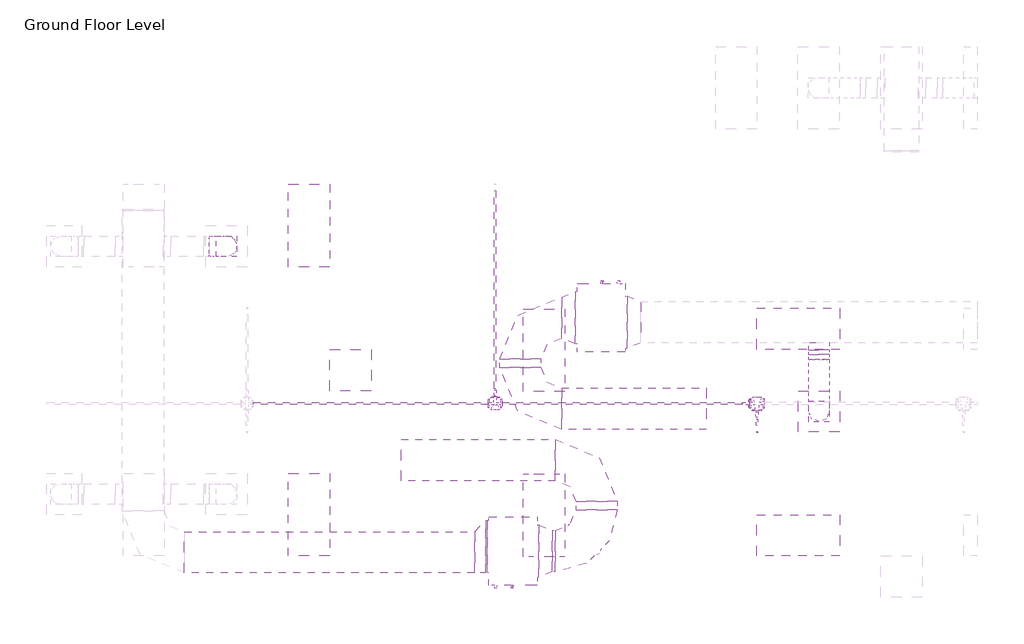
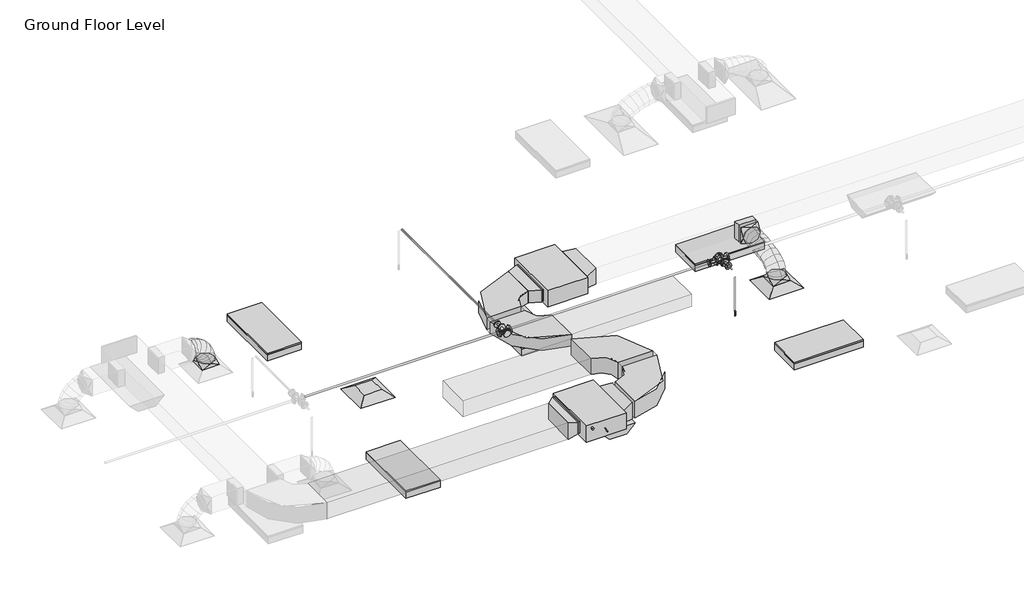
# One storey, part 11 of 66: 12 duct fittings, 11 duct segments, 6 light fixtures, 5 pipe fittings, 5 pipe segments, 2 air terminals, 2 proxies, 1 fire suppression terminal.
"""IFC4 building model written with IfcOpenShell, lengths in millimetres."""

from ifc_helpers import new_model, si_unit, point, frame, frame_2d, origin, place, context, project, spatial, polyline, circle_curve, ellipse_curve, trimmed, segment, composite_curve, outline, extrude, transform, mapped, element, save
from ifc_brep_helpers import plane_surface, cylinder_surface, advanced_brep
from components import m_return_diffuser_600_x_600_face_300_x_300_connection_ff221211, fcu_daikin_iu_7e1df382, m_rectangular_elbow_radius_1_w_907e8aaa, m_rectangular_elbow_radius_1_w_c6ed0251, m_rectangular_takeoff_standard_2be5eba1, m_rectangular_transition_angle_45_degree_ee72770e, m_rectangular_transition_angle_45_degree_4bb09f68, m_rectangular_transition_angle_45_degree_cf32fe34, m_rectangular_transition_angle_45_degree_023bf680, m_rectangular_to_round_transition_angle_45_degree_641efff0, m_sprinkler_dry_pendent_hosted_15_mm_dry_pendent_9bda8e11, m_emergency_recessed_lighting_fixture_600x1200_277_5b10b25d, m_troffer_light_parabolic_rectangular1_0600x1200mm_4_lamp_86473d4a, m_reducer_flanged_cs_class_150_standard_b6b67c23, m_reducer_flanged_cs_class_150_standard_ccf252ad, m_reducer_flanged_cs_class_150_standard_678fb8eb, m_tee_round_base_flanged_cs_class_150_standard_7e5987a1, m_tee_round_base_flanged_cs_class_150_standard_9c9133d0

model = new_model("IFC4")

# Units and contexts
model_context = context("Model", 3, world=origin())
ifc_project = project(units=[si_unit("LENGTHUNIT", "METRE", prefix="MILLI")], contexts=[model_context])

# Site, building, storey
site = spatial("IfcSite", under=ifc_project)
building = spatial("IfcBuilding", under=site)
storey = spatial("IfcBuildingStorey", under=building, Name="Ground Floor Level", Elevation=900.0)

# Air terminals
placement = place(None, origin())
m_return_diffuser_600_x_600_face_300_x_300_connection_shape = m_return_diffuser_600_x_600_face_300_x_300_connection_ff221211(model_context)
element("IfcAirTerminal", 1, ObjectType="M_Return Diffuser : 600 x 600 Face 300 x 300 Connection", at=placement, inside=storey, context=model_context, shape_type="MappedRepresentation", body=[
    mapped(m_return_diffuser_600_x_600_face_300_x_300_connection_shape, transform((-14937.2327605, -2464.7846466, 3650.0), x_axis=(1.0, 0.0, 0.0), y_axis=(0.0, 1.0, 0.0), z_axis=(0.0, 0.0, 1.0))),
])
element("IfcAirTerminal", 2, ObjectType="M_Supply Diffuser : 600 x 600 Face 300 x 300 Connection", at=placement, inside=storey, context=model_context, shape_type="MappedRepresentation", body=[
    mapped(m_return_diffuser_600_x_600_face_300_x_300_connection_shape, transform((-8137.2327605, -3064.7846466, 3650.0), x_axis=(1.0, 0.0, 0.0), y_axis=(0.0, 1.0, 0.0), z_axis=(0.0, 0.0, 1.0))),
])

# Proxies
fcu_daikin_iu_shape = fcu_daikin_iu_7e1df382(model_context)
element("IfcBuildingElementProxy", 3, Name="FCU-DAIKIN IU : 5.7kW, 230V/50Hz/1Ph", ObjectType="FCU-DAIKIN IU : 5.7kW, 230V/50Hz/1Ph", at=placement, inside=storey, context=model_context, shape_type="MappedRepresentation", body=[
    mapped(fcu_daikin_iu_shape, transform((-11297.2327605, -1704.7846466, 3934.0873731), x_axis=(0.0, 1.0, 0.0), y_axis=(-1.0, 0.0, 0.0), z_axis=(0.0, 0.0, 1.0))),
])
element("IfcBuildingElementProxy", 4, Name="FCU-DAIKIN IU : 5.7kW, 230V/50Hz/1Ph", ObjectType="FCU-DAIKIN IU : 5.7kW, 230V/50Hz/1Ph", at=placement, inside=storey, context=model_context, shape_type="MappedRepresentation", body=[
    mapped(fcu_daikin_iu_shape, transform((-12577.2327605, -5093.8471466, 3934.0895647), x_axis=(0.0, -1.0, 0.0), y_axis=(1.0, 0.0, 0.0), z_axis=(0.0, 0.0, 1.0))),
])

# Duct fittings
m_rectangular_elbow_radius_1_w_shape = m_rectangular_elbow_radius_1_w_907e8aaa(model_context)
element("IfcDuctFitting", 5, ObjectType="M_Rectangular Elbow - Radius : 1 W", at=placement, inside=storey, context=model_context, shape_type="MappedRepresentation", body=[
    mapped(m_rectangular_elbow_radius_1_w_shape, transform((-12472.6327605, -1704.7846466, 4075.2873731), x_axis=(-1.0, 0.0, 0.0), y_axis=(0.0, -1.0, 0.0), z_axis=(0.0, 0.0, 1.0))),
])
element("IfcDuctFitting", 6, ObjectType="M_Rectangular Elbow - Radius : 1 W", at=placement, inside=storey, context=model_context, shape_type="MappedRepresentation", body=[
    mapped(m_rectangular_elbow_radius_1_w_shape, transform((-12472.6327605, -3024.7846466, 4075.2873731), x_axis=(0.0, -1.0, 0.0), y_axis=(1.0, 0.0, 0.0), z_axis=(0.0, 0.0, 1.0))),
])
m_rectangular_elbow_radius_1_w_2_shape = m_rectangular_elbow_radius_1_w_c6ed0251(model_context)
element("IfcDuctFitting", 7, ObjectType="M_Rectangular Elbow - Radius : 1 W", at=placement, inside=storey, context=model_context, shape_type="MappedRepresentation", body=[
    mapped(m_rectangular_elbow_radius_1_w_2_shape, transform((-11361.8327606, -5093.8471466, 4075.3020647), x_axis=(0.9999999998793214, 0.0, 1.5535678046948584e-05), y_axis=(0.0, 1.0000000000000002, 0.0), z_axis=(-1.5535678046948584e-05, 0.0, 0.9999999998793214))),
])
element("IfcDuctFitting", 8, ObjectType="M_Rectangular Elbow - Radius : 1 W", at=placement, inside=storey, context=model_context, shape_type="MappedRepresentation", body=[
    mapped(m_rectangular_elbow_radius_1_w_2_shape, transform((-11361.8327606, -3773.8471466, 4075.3020647), x_axis=(0.0, 1.0, 0.0), y_axis=(-1.0, 0.0, 0.0), z_axis=(0.0, 0.0, 1.0))),
])
m_rectangular_takeoff_standard_shape = m_rectangular_takeoff_standard_2be5eba1(model_context)
element("IfcDuctFitting", 9, ObjectType="M_Rectangular Takeoff : Standard", at=placement, inside=storey, context=model_context, shape_type="MappedRepresentation", body=[
    mapped(m_rectangular_takeoff_standard_shape, transform((-8137.2327605, -2068.2846466, 4099.9964558), x_axis=(0.0, -1.0, 0.0), y_axis=(-1.0, 0.0, 0.0), z_axis=(0.0, 0.0, -1.0))),
])
m_rectangular_transition_angle_45_degree_shape = m_rectangular_transition_angle_45_degree_ee72770e(model_context)
element("IfcDuctFitting", 10, ObjectType="M_Rectangular Transition - Angle : 45 Degree", at=placement, inside=storey, context=model_context, shape_type="MappedRepresentation", body=[
    mapped(m_rectangular_transition_angle_45_degree_shape, transform((-10921.8327605, -1768.2846466, 4099.9998731), x_axis=(1.0, 0.0, 0.0), y_axis=(0.0, 1.0, 0.0), z_axis=(0.0, 0.0, 1.0))),
])
m_rectangular_transition_angle_45_degree_2_shape = m_rectangular_transition_angle_45_degree_4bb09f68(model_context)
element("IfcDuctFitting", 11, ObjectType="M_Rectangular Transition - Angle : 45 Degree", at=placement, inside=storey, context=model_context, shape_type="MappedRepresentation", body=[
    mapped(m_rectangular_transition_angle_45_degree_2_shape, transform((-11872.6327605, -1704.7846466, 4075.2873731), x_axis=(1.0, 0.0, 0.0), y_axis=(0.0, 1.0, 0.0), z_axis=(0.0, 0.0, 1.0))),
])
m_rectangular_transition_angle_45_degree_3_shape = m_rectangular_transition_angle_45_degree_cf32fe34(model_context)
element("IfcDuctFitting", 12, ObjectType="M_Rectangular Transition - Angle : 45 Degree", at=placement, inside=storey, context=model_context, shape_type="MappedRepresentation", body=[
    mapped(m_rectangular_transition_angle_45_degree_3_shape, transform((-12972.63276, -5030.3471466, 4100.0020647), x_axis=(-0.9999999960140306, 0.0, -8.928571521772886e-05), y_axis=(0.0, -1.0, 0.0), z_axis=(-8.928571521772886e-05, 0.0, 0.9999999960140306))),
])
m_rectangular_transition_angle_45_degree_4_shape = m_rectangular_transition_angle_45_degree_023bf680(model_context)
element("IfcDuctFitting", 13, ObjectType="M_Rectangular Transition - Angle : 45 Degree", at=placement, inside=storey, context=model_context, shape_type="MappedRepresentation", body=[
    mapped(m_rectangular_transition_angle_45_degree_4_shape, transform((-12201.8327605, -5093.8471466, 4075.2895647), x_axis=(1.0, 0.0, 0.0), y_axis=(0.0, 1.0, 0.0), z_axis=(0.0, 0.0, 1.0))),
])
m_rectangular_to_round_transition_angle_45_degree_shape = m_rectangular_to_round_transition_angle_45_degree_641efff0(model_context)
element("IfcDuctFitting", 14, ObjectType="M_Rectangular to Round Transition - Angle : 45 Degree", at=placement, inside=storey, context=model_context, shape_type="MappedRepresentation", body=[
    mapped(m_rectangular_to_round_transition_angle_45_degree_shape, transform((-8137.2327605, -3064.7846466, 3751.6), x_axis=(0.0, 0.0, 1.0), y_axis=(-1.0, 0.0, 0.0), z_axis=(0.0, -1.0, 0.0))),
])
element("IfcDuctFitting", 15, ObjectType="M_Rectangular to Round Transition - Angle : 45 Degree", at=placement, inside=storey, context=model_context, shape_type="MappedRepresentation", body=[
    mapped(m_rectangular_to_round_transition_angle_45_degree_shape, transform((-8137.2327605, -2237.4451712, 4099.9964558), x_axis=(0.0, -1.0, 0.0), y_axis=(1.0, 0.0, 0.0), z_axis=(0.0, 0.0, 1.0))),
])
element("IfcDuctFitting", 16, ObjectType="M_Rectangular to Round Transition - Angle : 45 Degree", at=placement, inside=storey, context=model_context, shape_type="MappedRepresentation", body=[
    mapped(m_rectangular_to_round_transition_angle_45_degree_shape, transform((-16737.2327605, -664.7846466, 3751.6), x_axis=(0.0, 0.0, 1.0), y_axis=(-1.0, 0.0, 0.0), z_axis=(0.0, -1.0, 0.0))),
])

# Duct segments
element("IfcDuctSegment", 17, ObjectType="Flex - Round", at=placement, inside=storey, context=model_context, shape_type="AdvancedBrep", body=[
    advanced_brep(
    [(-7987.2327605, -3064.7846466, 3826.6), (-8137.2327605, -3214.7846466, 3826.6), (-8287.2327605, -3064.7846466, 3826.6), (-8137.2327605, -2914.7846466, 3826.6), (-7987.2327605, -3064.7846466, 3857.9378602), (-8137.2327605, -3214.7846466, 3883.5812643), (-8287.2327605, -3064.7846466, 3857.9378602), (-8137.2327605, -2914.7846466, 3832.2944561), (-7987.2327605, -3047.7686158, 3906.2506375), (-8137.2327605, -3181.5063715, 3978.0666298), (-8287.2327605, -3047.7686158, 3906.2506375), (-8137.2327605, -2914.03086, 3834.4346451), (-7987.2327605, -3000.5844679, 3968.7111509), (-8137.2327605, -3104.7897605, 4079.6210528), (-8287.2327605, -3000.5844679, 3968.7111509), (-8137.2327605, -2896.3791753, 3857.801249), (-7987.2327605, -2929.0281198, 4016.0694592), (-8137.2327605, -2997.9612194, 4150.3236405), (-8287.2327605, -2929.0281198, 4016.0694592), (-8137.2327605, -2860.0950201, 3881.8152779), (-7987.2327605, -2838.8954883, 4050.4134811), (-8137.2327605, -2882.4552066, 4194.3359031), (-8287.2327605, -2838.8954883, 4050.4134811), (-8137.2327605, -2795.33577, 3906.4910592), (-7987.2327605, -2735.9824904, 4073.8311356), (-8137.2327605, -2762.5424239, 4221.6218258), (-8287.2327605, -2735.9824904, 4073.8311356), (-8137.2327605, -2709.4225569, 3926.0404454), (-7987.2327605, -2626.0850428, 4088.4103415), (-8137.2327605, -2641.2350842, 4237.7146898), (-8287.2327605, -2626.0850428, 4088.4103415), (-8137.2327605, -2610.9350014, 3939.1059931), (-7987.2327605, -2514.9990625, 4096.2390176), (-8137.2327605, -2522.5037209, 4246.0821669), (-8287.2327605, -2514.9990625, 4096.2390176), (-8137.2327605, -2507.4944041, 3946.3958683), (-7987.2327605, -2408.5204663, 4099.4050828), (-8137.2327605, -2411.2115659, 4249.3913598), (-8287.2327605, -2408.5204663, 4099.4050828), (-8137.2327605, -2405.8293668, 3949.4188057), (-7987.2327605, -2312.4451712, 4099.9964558), (-8137.2327605, -2311.5218924, 3949.9992973), (-8287.2327605, -2312.4451712, 4099.9964558), (-8137.2327605, -2313.36845, 4249.9936143)],
    [
        (0, 1, circle_curve(frame((-8137.2327605, -3064.7846466, 3826.6), z_axis=(0.0, 0.0, -1.0), x_axis=(1.0, 0.0, 0.0)), 150.0)),
        (1, 2, circle_curve(frame((-8137.2327605, -3064.7846466, 3826.6), z_axis=(0.0, 0.0, -1.0), x_axis=(1.0, 0.0, 0.0)), 150.0)),
        (2, 3, circle_curve(frame((-8137.2327605, -3064.7846466, 3826.6), z_axis=(0.0, 0.0, -1.0), x_axis=(1.0, 0.0, 0.0)), 150.0)),
        (3, 0, circle_curve(frame((-8137.2327605, -3064.7846466, 3826.6), z_axis=(0.0, 0.0, -1.0), x_axis=(1.0, 0.0, 0.0)), 150.0)),
        (0, 4),
        (4, 5, ellipse_curve(frame((-8137.2327605, -3064.7846466, 3857.9378602), z_axis=(0.0, -0.16851130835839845, -0.9856997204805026), x_axis=(0.0, 0.9856997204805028, -0.1685113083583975)), 152.1761616, 150.0)),
        (5, 1),
        (5, 6, ellipse_curve(frame((-8137.2327605, -3064.7846466, 3857.9378602), z_axis=(0.0, -0.16851130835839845, -0.9856997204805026), x_axis=(0.0, 0.9856997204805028, -0.1685113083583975)), 152.1761616, 150.0)),
        (6, 2),
        (6, 7, ellipse_curve(frame((-8137.2327605, -3064.7846466, 3857.9378602), z_axis=(0.0, -0.16851130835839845, -0.9856997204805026), x_axis=(0.0, 0.9856997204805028, -0.1685113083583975)), 152.1761616, 150.0)),
        (7, 3),
        (7, 4, ellipse_curve(frame((-8137.2327605, -3064.7846466, 3857.9378602), z_axis=(0.0, -0.16851130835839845, -0.9856997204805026), x_axis=(0.0, 0.9856997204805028, -0.1685113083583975)), 152.1761616, 150.0)),
        (4, 8),
        (8, 9, ellipse_curve(frame((-8137.2327605, -3047.7686158, 3906.2506375), z_axis=(0.0, -0.47309526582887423, -0.8810112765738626), x_axis=(0.0, 0.8810112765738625, -0.4730952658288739)), 151.8002769, 150.0)),
        (9, 5),
        (9, 10, ellipse_curve(frame((-8137.2327605, -3047.7686158, 3906.2506375), z_axis=(0.0, -0.47309526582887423, -0.8810112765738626), x_axis=(0.0, 0.8810112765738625, -0.4730952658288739)), 151.8002769, 150.0)),
        (10, 6),
        (10, 11, ellipse_curve(frame((-8137.2327605, -3047.7686158, 3906.2506375), z_axis=(0.0, -0.47309526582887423, -0.8810112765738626), x_axis=(0.0, 0.8810112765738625, -0.4730952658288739)), 151.8002769, 150.0)),
        (11, 7),
        (11, 8, ellipse_curve(frame((-8137.2327605, -3047.7686158, 3906.2506375), z_axis=(0.0, -0.47309526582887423, -0.8810112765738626), x_axis=(0.0, 0.8810112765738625, -0.4730952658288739)), 151.8002769, 150.0)),
        (8, 12),
        (12, 13, ellipse_curve(frame((-8137.2327605, -3000.5844679, 3968.7111509), z_axis=(0.0, -0.7287916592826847, -0.6847355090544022), x_axis=(0.0, 0.6847355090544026, -0.7287916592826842)), 152.1832755, 150.0)),
        (13, 9),
        (13, 14, ellipse_curve(frame((-8137.2327605, -3000.5844679, 3968.7111509), z_axis=(0.0, -0.7287916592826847, -0.6847355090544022), x_axis=(0.0, 0.6847355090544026, -0.7287916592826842)), 152.1832755, 150.0)),
        (14, 10),
        (14, 15, ellipse_curve(frame((-8137.2327605, -3000.5844679, 3968.7111509), z_axis=(0.0, -0.7287916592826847, -0.6847355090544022), x_axis=(0.0, 0.6847355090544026, -0.7287916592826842)), 152.1832755, 150.0)),
        (15, 11),
        (15, 12, ellipse_curve(frame((-8137.2327605, -3000.5844679, 3968.7111509), z_axis=(0.0, -0.7287916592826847, -0.6847355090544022), x_axis=(0.0, 0.6847355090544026, -0.7287916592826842)), 152.1832755, 150.0)),
        (12, 16),
        (16, 17, ellipse_curve(frame((-8137.2327605, -2929.0281198, 4016.0694592), z_axis=(0.0, -0.8895891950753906, -0.45676149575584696), x_axis=(0.0, 0.45676149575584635, -0.8895891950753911)), 150.9170548, 150.0)),
        (17, 13),
        (17, 18, ellipse_curve(frame((-8137.2327605, -2929.0281198, 4016.0694592), z_axis=(0.0, -0.8895891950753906, -0.45676149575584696), x_axis=(0.0, 0.45676149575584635, -0.8895891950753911)), 150.9170548, 150.0)),
        (18, 14),
        (18, 19, ellipse_curve(frame((-8137.2327605, -2929.0281198, 4016.0694592), z_axis=(0.0, -0.8895891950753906, -0.45676149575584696), x_axis=(0.0, 0.45676149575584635, -0.8895891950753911)), 150.9170548, 150.0)),
        (19, 15),
        (19, 16, ellipse_curve(frame((-8137.2327605, -2929.0281198, 4016.0694592), z_axis=(0.0, -0.8895891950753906, -0.45676149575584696), x_axis=(0.0, 0.45676149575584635, -0.8895891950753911)), 150.9170548, 150.0)),
        (16, 20),
        (20, 21, ellipse_curve(frame((-8137.2327605, -2838.8954883, 4050.4134811), z_axis=(0.0, -0.9571224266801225, -0.2896837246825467), x_axis=(0.0, 0.2896837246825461, -0.9571224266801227)), 150.3699192, 150.0)),
        (21, 17),
        (21, 22, ellipse_curve(frame((-8137.2327605, -2838.8954883, 4050.4134811), z_axis=(0.0, -0.9571224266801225, -0.2896837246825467), x_axis=(0.0, 0.2896837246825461, -0.9571224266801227)), 150.3699192, 150.0)),
        (22, 18),
        (22, 23, ellipse_curve(frame((-8137.2327605, -2838.8954883, 4050.4134811), z_axis=(0.0, -0.9571224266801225, -0.2896837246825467), x_axis=(0.0, 0.2896837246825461, -0.9571224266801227)), 150.3699192, 150.0)),
        (23, 19),
        (23, 20, ellipse_curve(frame((-8137.2327605, -2838.8954883, 4050.4134811), z_axis=(0.0, -0.9571224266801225, -0.2896837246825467), x_axis=(0.0, 0.2896837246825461, -0.9571224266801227)), 150.3699192, 150.0)),
        (20, 24),
        (24, 25, ellipse_curve(frame((-8137.2327605, -2735.9824904, 4073.8311356), z_axis=(0.0, -0.984232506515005, -0.17687954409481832), x_axis=(0.0, 0.17687954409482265, -0.9842325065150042)), 150.1583104, 150.0)),
        (25, 21),
        (25, 26, ellipse_curve(frame((-8137.2327605, -2735.9824904, 4073.8311356), z_axis=(0.0, -0.984232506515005, -0.17687954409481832), x_axis=(0.0, 0.17687954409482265, -0.9842325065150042)), 150.1583104, 150.0)),
        (26, 22),
        (26, 27, ellipse_curve(frame((-8137.2327605, -2735.9824904, 4073.8311356), z_axis=(0.0, -0.984232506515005, -0.17687954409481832), x_axis=(0.0, 0.17687954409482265, -0.9842325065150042)), 150.1583104, 150.0)),
        (27, 23),
        (27, 24, ellipse_curve(frame((-8137.2327605, -2735.9824904, 4073.8311356), z_axis=(0.0, -0.984232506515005, -0.17687954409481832), x_axis=(0.0, 0.17687954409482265, -0.9842325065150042)), 150.1583104, 150.0)),
        (24, 28),
        (28, 29, ellipse_curve(frame((-8137.2327605, -2626.0850428, 4088.4103415), z_axis=(0.0, -0.9948912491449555, -0.10095247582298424), x_axis=(0.0, 0.10095247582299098, -0.9948912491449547)), 150.0710238, 150.0)),
        (29, 25),
        (29, 30, ellipse_curve(frame((-8137.2327605, -2626.0850428, 4088.4103415), z_axis=(0.0, -0.9948912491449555, -0.10095247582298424), x_axis=(0.0, 0.10095247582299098, -0.9948912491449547)), 150.0710238, 150.0)),
        (30, 26),
        (30, 31, ellipse_curve(frame((-8137.2327605, -2626.0850428, 4088.4103415), z_axis=(0.0, -0.9948912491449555, -0.10095247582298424), x_axis=(0.0, 0.10095247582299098, -0.9948912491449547)), 150.0710238, 150.0)),
        (31, 27),
        (31, 28, ellipse_curve(frame((-8137.2327605, -2626.0850428, 4088.4103415), z_axis=(0.0, -0.9948912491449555, -0.10095247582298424), x_axis=(0.0, 0.10095247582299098, -0.9948912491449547)), 150.0710238, 150.0)),
        (28, 32),
        (32, 33, ellipse_curve(frame((-8137.2327605, -2514.9990625, 4096.2390176), z_axis=(0.0, -0.9987481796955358, -0.05002073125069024), x_axis=(0.0, 0.05002073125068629, -0.998748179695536)), 150.0309611, 150.0)),
        (33, 29),
        (33, 34, ellipse_curve(frame((-8137.2327605, -2514.9990625, 4096.2390176), z_axis=(0.0, -0.9987481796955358, -0.05002073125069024), x_axis=(0.0, 0.05002073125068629, -0.998748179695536)), 150.0309611, 150.0)),
        (34, 30),
        (34, 35, ellipse_curve(frame((-8137.2327605, -2514.9990625, 4096.2390176), z_axis=(0.0, -0.9987481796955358, -0.05002073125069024), x_axis=(0.0, 0.05002073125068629, -0.998748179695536)), 150.0309611, 150.0)),
        (35, 31),
        (35, 32, ellipse_curve(frame((-8137.2327605, -2514.9990625, 4096.2390176), z_axis=(0.0, -0.9987481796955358, -0.05002073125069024), x_axis=(0.0, 0.05002073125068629, -0.998748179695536)), 150.0309611, 150.0)),
        (32, 36),
        (36, 37, ellipse_curve(frame((-8137.2327605, -2408.5204663, 4099.4050828), z_axis=(0.0, -0.9998390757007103, -0.017939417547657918), x_axis=(0.0, 0.01793941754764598, -0.9998390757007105)), 150.0104173, 150.0)),
        (37, 33),
        (37, 38, ellipse_curve(frame((-8137.2327605, -2408.5204663, 4099.4050828), z_axis=(0.0, -0.9998390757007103, -0.017939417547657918), x_axis=(0.0, 0.01793941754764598, -0.9998390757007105)), 150.0104173, 150.0)),
        (38, 34),
        (38, 39, ellipse_curve(frame((-8137.2327605, -2408.5204663, 4099.4050828), z_axis=(0.0, -0.9998390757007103, -0.017939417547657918), x_axis=(0.0, 0.01793941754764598, -0.9998390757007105)), 150.0104173, 150.0)),
        (39, 35),
        (39, 36, ellipse_curve(frame((-8137.2327605, -2408.5204663, 4099.4050828), z_axis=(0.0, -0.9998390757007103, -0.017939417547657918), x_axis=(0.0, 0.01793941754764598, -0.9998390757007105)), 150.0104173, 150.0)),
        (40, 41, circle_curve(frame((-8137.2327605, -2312.4451712, 4099.9964558), z_axis=(0.0, 0.9999810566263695, 0.006155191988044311), x_axis=(1.0, 0.0, 0.0)), 150.0)),
        (41, 42, circle_curve(frame((-8137.2327605, -2312.4451712, 4099.9964558), z_axis=(0.0, 0.9999810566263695, 0.006155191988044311), x_axis=(1.0, 0.0, 0.0)), 150.0)),
        (42, 43, circle_curve(frame((-8137.2327605, -2312.4451712, 4099.9964558), z_axis=(0.0, 0.9999810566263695, 0.006155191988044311), x_axis=(1.0, 0.0, 0.0)), 150.0)),
        (43, 40, circle_curve(frame((-8137.2327605, -2312.4451712, 4099.9964558), z_axis=(0.0, 0.9999810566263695, 0.006155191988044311), x_axis=(1.0, 0.0, 0.0)), 150.0)),
        (36, 40),
        (43, 37),
        (42, 38),
        (41, 39),
    ],
    [
        plane_surface(frame((-8137.2327605, -3214.7846466, 3826.6), z_axis=(0.0, 0.0, -1.0), x_axis=(1.0, 0.0, 0.0))),
        cylinder_surface(frame((-8137.2327605, -3064.7846466, 3826.6), z_axis=(0.0, 0.0, -1.0), x_axis=(1.0, 0.0, 0.0)), 150.0),
        cylinder_surface(frame((-8137.2327605, -3064.7846466, 3857.9378602), z_axis=(0.0, -0.3322030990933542, -0.9432078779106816), x_axis=(1.0, 0.0, 0.0)), 150.0),
        cylinder_surface(frame((-8137.2327605, -3047.7686158, 3906.2506375), z_axis=(0.0, -0.6027660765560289, -0.7979179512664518), x_axis=(1.0, 0.0, 0.0)), 150.0),
        cylinder_surface(frame((-8137.2327605, -3000.5844679, 3968.7111509), z_axis=(0.0, -0.8339062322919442, -0.5519061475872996), x_axis=(1.0, 0.0, 0.0)), 150.0),
        cylinder_surface(frame((-8137.2327605, -2929.0281198, 4016.0694592), z_axis=(0.0, -0.9344608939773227, -0.356065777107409), x_axis=(1.0, 0.0, 0.0)), 150.0),
        cylinder_surface(frame((-8137.2327605, -2838.8954883, 4050.4134811), z_axis=(0.0, -0.9750748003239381, -0.22187639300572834), x_axis=(1.0, 0.0, 0.0)), 150.0),
        cylinder_surface(frame((-8137.2327605, -2735.9824904, 4073.8311356), z_axis=(0.0, -0.9913148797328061, -0.13150973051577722), x_axis=(1.0, 0.0, 0.0)), 150.0),
        cylinder_surface(frame((-8137.2327605, -2626.0850428, 4088.4103415), z_axis=(0.0, -0.9975259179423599, -0.07029966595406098), x_axis=(1.0, 0.0, 0.0)), 150.0),
        cylinder_surface(frame((-8137.2327605, -2514.9990625, 4096.2390176), z_axis=(0.0, -0.9995582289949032, -0.029721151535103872), x_axis=(1.0, 0.0, 0.0)), 150.0),
        plane_surface(frame((-8137.2327605, -2313.36845, 4249.9936143), z_axis=(0.0, 0.9999810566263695, 0.006155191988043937), x_axis=(1.0, 0.0, 0.0))),
        cylinder_surface(frame((-8137.2327605, -2408.5204663, 4099.4050828), z_axis=(0.0, -0.9999810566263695, -0.006155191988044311), x_axis=(1.0, 0.0, 0.0)), 150.0),
    ],
    [
        (0, [[1, 2, 3, 4]]),
        (1, [[-1, 5, 6, 7]]),
        (1, [[-2, -7, 8, 9]]),
        (1, [[-3, -9, 10, 11]]),
        (1, [[-4, -11, 12, -5]]),
        (2, [[-6, 13, 14, 15]]),
        (2, [[-8, -15, 16, 17]]),
        (2, [[-10, -17, 18, 19]]),
        (2, [[-12, -19, 20, -13]]),
        (3, [[-14, 21, 22, 23]]),
        (3, [[-16, -23, 24, 25]]),
        (3, [[-18, -25, 26, 27]]),
        (3, [[-20, -27, 28, -21]]),
        (4, [[-22, 29, 30, 31]]),
        (4, [[-24, -31, 32, 33]]),
        (4, [[-26, -33, 34, 35]]),
        (4, [[-28, -35, 36, -29]]),
        (5, [[-30, 37, 38, 39]]),
        (5, [[-32, -39, 40, 41]]),
        (5, [[-34, -41, 42, 43]]),
        (5, [[-36, -43, 44, -37]]),
        (6, [[-38, 45, 46, 47]]),
        (6, [[-40, -47, 48, 49]]),
        (6, [[-42, -49, 50, 51]]),
        (6, [[-44, -51, 52, -45]]),
        (7, [[-46, 53, 54, 55]]),
        (7, [[-48, -55, 56, 57]]),
        (7, [[-50, -57, 58, 59]]),
        (7, [[-52, -59, 60, -53]]),
        (8, [[-54, 61, 62, 63]]),
        (8, [[-56, -63, 64, 65]]),
        (8, [[-58, -65, 66, 67]]),
        (8, [[-60, -67, 68, -61]]),
        (9, [[-62, 69, 70, 71]]),
        (9, [[-64, -71, 72, 73]]),
        (9, [[-66, -73, 74, 75]]),
        (9, [[-68, -75, 76, -69]]),
        (10, [[77, 78, 79, 80]]),
        (11, [[-70, 81, -80, 82]]),
        (11, [[-72, -82, -79, 83]]),
        (11, [[-74, -83, -78, 84]]),
        (11, [[-76, -84, -77, -81]]),
    ],
),
])
element("IfcDuctSegment", 18, ObjectType="Flex - Round", at=placement, inside=storey, context=model_context, shape_type="AdvancedBrep", body=[
    advanced_brep(
    [(-16587.2327605, -664.7846466, 3826.6), (-16737.2327605, -814.7846466, 3826.6), (-16887.2327605, -664.7846466, 3826.6), (-16737.2327605, -514.7846466, 3826.6), (-16587.2327605, -664.7846466, 3876.1927096), (-16737.2327605, -814.7846466, 3854.3867302), (-16887.2327605, -664.7846466, 3832.5807508), (-16737.2327605, -514.7846466, 3854.3867302), (-16611.9605873, -664.7846466, 3959.4447987), (-16751.5699162, -814.7846466, 3902.6561626), (-16891.1792451, -664.7846466, 3845.8675264), (-16751.5699162, -514.7846466, 3902.6561626), (-16666.3134835, -664.7846466, 4062.8525006), (-16790.3375927, -814.7846466, 3976.4126063), (-16914.3617019, -664.7846466, 3889.9727121), (-16790.3375927, -514.7846466, 3976.4126063), (-16749.2073595, -664.7846466, 4154.8420293), (-16847.1701043, -814.7846466, 4039.481149), (-16945.132849, -664.7846466, 3924.1202687), (-16847.1701043, -514.7846466, 4039.481149), (-16846.5982823, -664.7846466, 4217.3600851), (-16915.7017653, -814.7846466, 4083.4736083), (-16984.8052483, -664.7846466, 3949.5871315), (-16915.7017653, -514.7846466, 4083.4736083), (-16927.78853, -664.7846466, 4250.0018019), (-16956.8125972, -814.7846466, 4100.0018019), (-16985.8366644, -664.7846466, 3950.0018019), (-16956.8125972, -514.7846466, 4100.0018019), (-16989.5668899, -664.7846466, 4250.0018019), (-16989.5668899, -514.7846466, 4100.0018019), (-16989.5668899, -664.7846466, 3950.0018019), (-16989.5668899, -814.7846466, 4100.0018019)],
    [
        (0, 1, circle_curve(frame((-16737.2327605, -664.7846466, 3826.6), z_axis=(0.0, 0.0, -1.0), x_axis=(1.0, 0.0, 0.0)), 150.0)),
        (1, 2, circle_curve(frame((-16737.2327605, -664.7846466, 3826.6), z_axis=(0.0, 0.0, -1.0), x_axis=(1.0, 0.0, 0.0)), 150.0)),
        (2, 3, circle_curve(frame((-16737.2327605, -664.7846466, 3826.6), z_axis=(0.0, 0.0, -1.0), x_axis=(1.0, 0.0, 0.0)), 150.0)),
        (3, 0, circle_curve(frame((-16737.2327605, -664.7846466, 3826.6), z_axis=(0.0, 0.0, -1.0), x_axis=(1.0, 0.0, 0.0)), 150.0)),
        (0, 4),
        (4, 5, ellipse_curve(frame((-16737.2327605, -664.7846466, 3854.3867302), z_axis=(0.1438610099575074, 0.0, -0.9895979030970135), x_axis=(-0.9895979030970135, 0.0, -0.14386100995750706)), 151.5767157, 150.0)),
        (5, 1),
        (5, 6, ellipse_curve(frame((-16737.2327605, -664.7846466, 3854.3867302), z_axis=(0.1438610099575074, 0.0, -0.9895979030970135), x_axis=(-0.9895979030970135, 0.0, -0.14386100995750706)), 151.5767157, 150.0)),
        (6, 2),
        (6, 7, ellipse_curve(frame((-16737.2327605, -664.7846466, 3854.3867302), z_axis=(0.1438610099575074, 0.0, -0.9895979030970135), x_axis=(-0.9895979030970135, 0.0, -0.14386100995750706)), 151.5767157, 150.0)),
        (7, 3),
        (7, 4, ellipse_curve(frame((-16737.2327605, -664.7846466, 3854.3867302), z_axis=(0.1438610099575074, 0.0, -0.9895979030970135), x_axis=(-0.9895979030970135, 0.0, -0.14386100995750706)), 151.5767157, 150.0)),
        (4, 8),
        (8, 9, ellipse_curve(frame((-16751.5699162, -664.7846466, 3902.6561626), z_axis=(0.37678902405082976, 0.0, -0.9262991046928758), x_axis=(-0.9262991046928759, 0.0, -0.37678902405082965)), 150.7173312, 150.0)),
        (9, 5),
        (9, 10, ellipse_curve(frame((-16751.5699162, -664.7846466, 3902.6561626), z_axis=(0.37678902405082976, 0.0, -0.9262991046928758), x_axis=(-0.9262991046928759, 0.0, -0.37678902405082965)), 150.7173312, 150.0)),
        (10, 6),
        (10, 11, ellipse_curve(frame((-16751.5699162, -664.7846466, 3902.6561626), z_axis=(0.37678902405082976, 0.0, -0.9262991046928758), x_axis=(-0.9262991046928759, 0.0, -0.37678902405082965)), 150.7173312, 150.0)),
        (11, 7),
        (11, 8, ellipse_curve(frame((-16751.5699162, -664.7846466, 3902.6561626), z_axis=(0.37678902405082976, 0.0, -0.9262991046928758), x_axis=(-0.9262991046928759, 0.0, -0.37678902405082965)), 150.7173312, 150.0)),
        (8, 12),
        (12, 13, ellipse_curve(frame((-16790.3375927, -664.7846466, 3976.4126063), z_axis=(0.5717875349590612, 0.0, -0.8204017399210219), x_axis=(-0.8204017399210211, 0.0, -0.5717875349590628)), 151.174849, 150.0)),
        (13, 9),
        (13, 14, ellipse_curve(frame((-16790.3375927, -664.7846466, 3976.4126063), z_axis=(0.5717875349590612, 0.0, -0.8204017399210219), x_axis=(-0.8204017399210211, 0.0, -0.5717875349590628)), 151.174849, 150.0)),
        (14, 10),
        (14, 15, ellipse_curve(frame((-16790.3375927, -664.7846466, 3976.4126063), z_axis=(0.5717875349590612, 0.0, -0.8204017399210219), x_axis=(-0.8204017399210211, 0.0, -0.5717875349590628)), 151.174849, 150.0)),
        (15, 11),
        (15, 12, ellipse_curve(frame((-16790.3375927, -664.7846466, 3976.4126063), z_axis=(0.5717875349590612, 0.0, -0.8204017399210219), x_axis=(-0.8204017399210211, 0.0, -0.5717875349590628)), 151.174849, 150.0)),
        (12, 16),
        (16, 17, ellipse_curve(frame((-16847.1701043, -664.7846466, 4039.481149), z_axis=(0.7622457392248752, 0.0, -0.6472877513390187), x_axis=(-0.6472877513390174, 0.0, -0.7622457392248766)), 151.3434242, 150.0)),
        (17, 13),
        (17, 18, ellipse_curve(frame((-16847.1701043, -664.7846466, 4039.481149), z_axis=(0.7622457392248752, 0.0, -0.6472877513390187), x_axis=(-0.6472877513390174, 0.0, -0.7622457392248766)), 151.3434242, 150.0)),
        (18, 14),
        (18, 19, ellipse_curve(frame((-16847.1701043, -664.7846466, 4039.481149), z_axis=(0.7622457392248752, 0.0, -0.6472877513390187), x_axis=(-0.6472877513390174, 0.0, -0.7622457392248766)), 151.3434242, 150.0)),
        (19, 15),
        (19, 16, ellipse_curve(frame((-16847.1701043, -664.7846466, 4039.481149), z_axis=(0.7622457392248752, 0.0, -0.6472877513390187), x_axis=(-0.6472877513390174, 0.0, -0.7622457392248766)), 151.3434242, 150.0)),
        (16, 20),
        (20, 21, ellipse_curve(frame((-16915.7017653, -664.7846466, 4083.4736083), z_axis=(0.8886185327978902, 0.0, -0.45864703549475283), x_axis=(-0.4586470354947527, 0.0, -0.8886185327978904)), 150.6681122, 150.0)),
        (21, 17),
        (21, 22, ellipse_curve(frame((-16915.7017653, -664.7846466, 4083.4736083), z_axis=(0.8886185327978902, 0.0, -0.45864703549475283), x_axis=(-0.4586470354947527, 0.0, -0.8886185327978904)), 150.6681122, 150.0)),
        (22, 18),
        (22, 23, ellipse_curve(frame((-16915.7017653, -664.7846466, 4083.4736083), z_axis=(0.8886185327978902, 0.0, -0.45864703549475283), x_axis=(-0.4586470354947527, 0.0, -0.8886185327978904)), 150.6681122, 150.0)),
        (23, 19),
        (23, 20, ellipse_curve(frame((-16915.7017653, -664.7846466, 4083.4736083), z_axis=(0.8886185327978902, 0.0, -0.45864703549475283), x_axis=(-0.4586470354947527, 0.0, -0.8886185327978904)), 150.6681122, 150.0)),
        (20, 24),
        (24, 25, ellipse_curve(frame((-16956.8125972, -664.7846466, 4100.0018019), z_axis=(0.9817898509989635, 0.0, -0.18997023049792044), x_axis=(-0.18997023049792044, 0.0, -0.9817898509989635)), 152.7821864, 150.0)),
        (25, 21),
        (25, 26, ellipse_curve(frame((-16956.8125972, -664.7846466, 4100.0018019), z_axis=(0.9817898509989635, 0.0, -0.18997023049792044), x_axis=(-0.18997023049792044, 0.0, -0.9817898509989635)), 152.7821864, 150.0)),
        (26, 22),
        (26, 27, ellipse_curve(frame((-16956.8125972, -664.7846466, 4100.0018019), z_axis=(0.9817898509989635, 0.0, -0.18997023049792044), x_axis=(-0.18997023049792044, 0.0, -0.9817898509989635)), 152.7821864, 150.0)),
        (27, 23),
        (27, 24, ellipse_curve(frame((-16956.8125972, -664.7846466, 4100.0018019), z_axis=(0.9817898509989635, 0.0, -0.18997023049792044), x_axis=(-0.18997023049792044, 0.0, -0.9817898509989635)), 152.7821864, 150.0)),
        (28, 29, circle_curve(frame((-16989.5668899, -664.7846466, 4100.0018019), z_axis=(-1.0, 0.0, 0.0), x_axis=(0.0, 0.0, 1.0)), 150.0)),
        (29, 30, circle_curve(frame((-16989.5668899, -664.7846466, 4100.0018019), z_axis=(-1.0, 0.0, 0.0), x_axis=(0.0, 0.0, 1.0)), 150.0)),
        (30, 31, circle_curve(frame((-16989.5668899, -664.7846466, 4100.0018019), z_axis=(-1.0, 0.0, 0.0), x_axis=(0.0, 0.0, 1.0)), 150.0)),
        (31, 28, circle_curve(frame((-16989.5668899, -664.7846466, 4100.0018019), z_axis=(-1.0, 0.0, 0.0), x_axis=(0.0, 0.0, 1.0)), 150.0)),
        (24, 28),
        (31, 25),
        (30, 26),
        (29, 27),
    ],
    [
        plane_surface(frame((-16737.2327605, -814.7846466, 3826.6), z_axis=(0.0, 0.0, -1.0), x_axis=(1.0, 0.0, 0.0))),
        cylinder_surface(frame((-16737.2327605, -664.7846466, 3826.6), z_axis=(0.0, 0.0, -1.0), x_axis=(1.0, 0.0, 0.0)), 150.0),
        cylinder_surface(frame((-16737.2327605, -664.7846466, 3854.3867302), z_axis=(0.28472910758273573, 0.0, -0.958608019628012), x_axis=(0.958608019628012, 0.0, 0.28472910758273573)), 150.0),
        cylinder_surface(frame((-16751.5699162, -664.7846466, 3902.6561626), z_axis=(0.46526232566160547, 0.0, -0.8851728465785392), x_axis=(0.8851728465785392, 0.0, 0.46526232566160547)), 150.0),
        cylinder_surface(frame((-16790.3375927, -664.7846466, 3976.4126063), z_axis=(0.6694254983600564, 0.0, -0.7428791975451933), x_axis=(0.7428791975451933, 0.0, 0.6694254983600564)), 150.0),
        cylinder_surface(frame((-16847.1701043, -664.7846466, 4039.481149), z_axis=(0.8415335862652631, 0.0, -0.5402047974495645), x_axis=(0.5402047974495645, 0.0, 0.8415335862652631)), 150.0),
        cylinder_surface(frame((-16915.7017653, -664.7846466, 4083.4736083), z_axis=(0.9278226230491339, 0.0, -0.3730216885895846), x_axis=(0.3730216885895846, 0.0, 0.9278226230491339)), 150.0),
        plane_surface(frame((-16989.5668899, -664.7846466, 3950.0018019), z_axis=(-1.0, 0.0, 0.0), x_axis=(0.0, -1.0, 0.0))),
        cylinder_surface(frame((-16956.8125972, -664.7846466, 4100.0018019), z_axis=(1.0, 0.0, 0.0), x_axis=(0.0, 0.0, 1.0)), 150.0),
    ],
    [
        (0, [[1, 2, 3, 4]]),
        (1, [[-1, 5, 6, 7]]),
        (1, [[-2, -7, 8, 9]]),
        (1, [[-3, -9, 10, 11]]),
        (1, [[-4, -11, 12, -5]]),
        (2, [[-6, 13, 14, 15]]),
        (2, [[-8, -15, 16, 17]]),
        (2, [[-10, -17, 18, 19]]),
        (2, [[-12, -19, 20, -13]]),
        (3, [[-14, 21, 22, 23]]),
        (3, [[-16, -23, 24, 25]]),
        (3, [[-18, -25, 26, 27]]),
        (3, [[-20, -27, 28, -21]]),
        (4, [[-22, 29, 30, 31]]),
        (4, [[-24, -31, 32, 33]]),
        (4, [[-26, -33, 34, 35]]),
        (4, [[-28, -35, 36, -29]]),
        (5, [[-30, 37, 38, 39]]),
        (5, [[-32, -39, 40, 41]]),
        (5, [[-34, -41, 42, 43]]),
        (5, [[-36, -43, 44, -37]]),
        (6, [[-38, 45, 46, 47]]),
        (6, [[-40, -47, 48, 49]]),
        (6, [[-42, -49, 50, 51]]),
        (6, [[-44, -51, 52, -45]]),
        (7, [[53, 54, 55, 56]]),
        (8, [[-46, 57, -56, 58]]),
        (8, [[-48, -58, -55, 59]]),
        (8, [[-50, -59, -54, 60]]),
        (8, [[-52, -60, -53, -57]]),
    ],
),
])
element("IfcDuctSegment", 19, ObjectType="Radius Elbows / Taps", at=placement, inside=storey, context=model_context, shape_type="SweptSolid", body=[
    extrude(outline(polyline([(-11672.6327605, -1323.8471466), (-11672.6327605, -2085.7221466), (-11677.2323503, -2085.7221466), (-11677.2323503, -1323.8471466), (-11672.6327605, -1323.8471466)])), frame((0.0, 0.0, 3968.1373731), z_axis=(0.0, 0.0, 1.0), x_axis=(1.0, 0.0, 0.0)), (0.0, 0.0, 1.0), 214.3),
])
element("IfcDuctSegment", 20, ObjectType="Radius Elbows / Taps", at=placement, inside=storey, context=model_context, shape_type="SweptSolid", body=[
    extrude(outline(polyline([(-12772.6327605, -2304.7846466), (-12172.6327605, -2304.7846466), (-12172.6327605, -2424.7846466), (-12772.6327605, -2424.7846466), (-12772.6327605, -2304.7846466)])), frame((0.0, 0.0, 3968.2873731), z_axis=(0.0, 0.0, 1.0), x_axis=(1.0, 0.0, 0.0)), (0.0, 0.0, 1.0), 214.0),
])
element("IfcDuctSegment", 21, ObjectType="Radius Elbows / Taps", at=placement, inside=storey, context=model_context, shape_type="SweptSolid", body=[
    extrude(outline(polyline([(-11872.6327605, -3324.7846466), (-11872.6327605, -2724.7846466), (-9772.6327605, -2724.7846466), (-9772.6327605, -3324.7846466), (-11872.6327605, -3324.7846466)])), frame((0.0, 0.0, 3968.2873731), z_axis=(0.0, 0.0, 1.0), x_axis=(1.0, 0.0, 0.0)), (0.0, 0.0, 1.0), 214.0),
])
element("IfcDuctSegment", 22, ObjectType="Radius Elbows / Taps", at=placement, inside=storey, context=model_context, shape_type="SweptSolid", body=[
    extrude(outline(polyline([(0.0, -600.0), (0.0, 0.0), (4213.5254116, 0.0), (4213.5254116, -600.0), (0.0, -600.0)])), frame((-17348.0336749, -4811.2846466, 3950.0), z_axis=(3.3610180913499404e-06, 0.0, 0.9999999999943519), x_axis=(0.9999999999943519, 0.0, -3.3610180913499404e-06)), (0.0, 0.0, 1.0), 300.0),
])
element("IfcDuctSegment", 23, ObjectType="Radius Elbows / Taps", at=placement, inside=storey, context=model_context, shape_type="SweptSolid", body=[
    extrude(outline(polyline([(-12952.6327605, -4649.4096466), (-12952.6327605, -5411.2846466), (-12972.63276, -5411.2846466), (-12972.63276, -4649.4096466), (-12952.6327605, -4649.4096466)])), frame((0.0, 0.0, 3992.8645647), z_axis=(0.0, 0.0, 1.0), x_axis=(1.0, 0.0, 0.0)), (0.0, 0.0, 1.0), 214.275),
])
element("IfcDuctSegment", 24, ObjectType="Radius Elbows / Taps", at=placement, inside=storey, context=model_context, shape_type="SweptSolid", body=[
    extrude(outline(polyline([(0.0, -600.0), (0.0, 0.0), (44.5995899, 0.0), (44.5995899, -600.0), (0.0, -600.0)])), frame((-12006.4216599, -4793.8471466, 3925.2895651), z_axis=(-7.126956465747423e-05, 0.0, 0.9999999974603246), x_axis=(0.9999999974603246, 0.0, 7.126956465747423e-05)), (0.0, 0.0, 1.0), 300.0),
])
element("IfcDuctSegment", 25, ObjectType="Radius Elbows / Taps", at=placement, inside=storey, context=model_context, shape_type="SweptSolid", body=[
    extrude(outline(polyline([(-11061.8327606, -4493.8471466), (-11661.8327606, -4493.8471466), (-11661.8327606, -4373.8471466), (-11061.8327606, -4373.8471466), (-11061.8327606, -4493.8471466)])), frame((0.0, 0.0, 3925.3020647), z_axis=(0.0, 0.0, 1.0), x_axis=(1.0, 0.0, 0.0)), (0.0, 0.0, 1.0), 300.0),
])
element("IfcDuctSegment", 26, ObjectType="Radius Elbows / Taps", at=placement, inside=storey, context=model_context, shape_type="SweptSolid", body=[
    extrude(outline(polyline([(-11961.8327606, -3473.8471466), (-11961.8327606, -4073.8471466), (-14201.8327606, -4073.8471466), (-14201.8327606, -3473.8471466), (-11961.8327606, -3473.8471466)])), frame((0.0, 0.0, 3925.3020647), z_axis=(0.0, 0.0, 1.0), x_axis=(1.0, 0.0, 0.0)), (0.0, 0.0, 1.0), 300.0),
])
element("IfcDuctSegment", 27, ObjectType="Radius Elbows / Taps", at=placement, inside=storey, context=model_context, shape_type="SweptSolid", body=[
    extrude(outline(polyline([(-8287.2327605, -2169.8846466), (-7987.2327605, -2169.8846466), (-7987.2327605, -2237.4451712), (-8287.2327605, -2237.4451712), (-8287.2327605, -2169.8846466)])), frame((0.0, 0.0, 3949.9964558), z_axis=(0.0, 0.0, 1.0), x_axis=(1.0, 0.0, 0.0)), (0.0, 0.0, 1.0), 300.0),
])

# Fire suppression terminal
m_sprinkler_dry_pendent_hosted_15_mm_dry_pendent_shape = m_sprinkler_dry_pendent_hosted_15_mm_dry_pendent_9bda8e11(model_context)
element("IfcFireSuppressionTerminal", 28, ObjectType="M_Sprinkler - Dry - Pendent - Hosted : 15 mm Dry Pendent", at=placement, inside=storey, context=model_context, shape_type="MappedRepresentation", body=[
    mapped(m_sprinkler_dry_pendent_hosted_15_mm_dry_pendent_shape, transform((-9037.2327605, -3364.7846466, 3650.0), x_axis=(1.0, 0.0, 0.0), y_axis=(0.0, -1.0, 0.0), z_axis=(0.0, 0.0, -1.0))),
])

# Light fixtures
m_emergency_recessed_lighting_fixture_600x1200_277_shape = m_emergency_recessed_lighting_fixture_600x1200_277_5b10b25d(model_context)
element("IfcLightFixture", 29, ObjectType="M_Emergency Recessed Lighting Fixture : 600x1200 - 277", at=placement, inside=storey, context=model_context, shape_type="MappedRepresentation", body=[
    mapped(m_emergency_recessed_lighting_fixture_600x1200_277_shape, transform((-12427.2327605, -5174.7846466, 3650.0), x_axis=(0.0, 1.0, 0.0), y_axis=(-1.0, 0.0, 0.0), z_axis=(0.0, 0.0, 1.0))),
])
m_troffer_light_parabolic_rectangular1_0600x1200mm_4_lamp_shape = m_troffer_light_parabolic_rectangular1_0600x1200mm_4_lamp_86473d4a(model_context)
element("IfcLightFixture", 30, ObjectType="M_Troffer Light - Parabolic Rectangular1 : 0600x1200mm(4 Lamp) - 277V 2", at=placement, inside=storey, context=model_context, shape_type="MappedRepresentation", body=[
    mapped(m_troffer_light_parabolic_rectangular1_0600x1200mm_4_lamp_shape, transform((-8418.5292589, -1805.3187145, 3650.0), x_axis=(1.0, 0.0, 0.0), y_axis=(0.0, 1.0, 0.0), z_axis=(0.0, 0.0, 1.0))),
])
element("IfcLightFixture", 31, ObjectType="M_Troffer Light - Parabolic Rectangular1 : 0600x1200mm(4 Lamp) - 277V 2", at=placement, inside=storey, context=model_context, shape_type="MappedRepresentation", body=[
    mapped(m_troffer_light_parabolic_rectangular1_0600x1200mm_4_lamp_shape, transform((-8418.5292589, -4805.3187145, 3650.0), x_axis=(1.0, 0.0, 0.0), y_axis=(0.0, 1.0, 0.0), z_axis=(0.0, 0.0, 1.0))),
])
element("IfcLightFixture", 32, ObjectType="M_Troffer Light - Parabolic Rectangular1 : 0600x1200mm(4 Lamp) - 277V 2", at=placement, inside=storey, context=model_context, shape_type="MappedRepresentation", body=[
    mapped(m_troffer_light_parabolic_rectangular1_0600x1200mm_4_lamp_shape, transform((-15596.6986926, -346.081145, 3650.0), x_axis=(0.0, 1.0, 0.0), y_axis=(-1.0, 0.0, 0.0), z_axis=(0.0, 0.0, 1.0))),
])
element("IfcLightFixture", 33, ObjectType="M_Troffer Light - Parabolic Rectangular1 : 0600x1200mm(4 Lamp) - 277V 2", at=placement, inside=storey, context=model_context, shape_type="MappedRepresentation", body=[
    mapped(m_troffer_light_parabolic_rectangular1_0600x1200mm_4_lamp_shape, transform((-15596.6986926, -4546.081145, 3650.0), x_axis=(0.0, 1.0, 0.0), y_axis=(-1.0, 0.0, 0.0), z_axis=(0.0, 0.0, 1.0))),
])
element("IfcLightFixture", 34, ObjectType="M_Troffer Light - Parabolic Rectangular1 : 0600x1200mm(4 Lamp) - 277V 2", at=placement, inside=storey, context=model_context, shape_type="MappedRepresentation", body=[
    mapped(m_troffer_light_parabolic_rectangular1_0600x1200mm_4_lamp_shape, transform((-12186.6986926, -2156.081145, 3650.0), x_axis=(0.0, 1.0, 0.0), y_axis=(-1.0, 0.0, 0.0), z_axis=(0.0, 0.0, 1.0))),
])

# Pipe fittings
m_reducer_flanged_cs_class_150_standard_shape = m_reducer_flanged_cs_class_150_standard_b6b67c23(model_context)
element("IfcPipeFitting", 35, ObjectType="M_Reducer - Flanged - CS - Class 150 : Standard", at=placement, inside=storey, context=model_context, shape_type="MappedRepresentation", body=[
    mapped(m_reducer_flanged_cs_class_150_standard_shape, transform((-9143.3313543, -2950.3491993, 4360.0), x_axis=(-1.0, 0.0, 0.0), y_axis=(0.0, -1.0, 0.0), z_axis=(0.0, 0.0, 1.0))),
])
m_reducer_flanged_cs_class_150_standard_2_shape = m_reducer_flanged_cs_class_150_standard_ccf252ad(model_context)
element("IfcPipeFitting", 36, ObjectType="M_Reducer - Flanged - CS - Class 150 : Standard", at=placement, inside=storey, context=model_context, shape_type="MappedRepresentation", body=[
    mapped(m_reducer_flanged_cs_class_150_standard_2_shape, transform((-12837.2327605, -2849.6406055, 4360.0), x_axis=(0.0, 1.0, 0.0), y_axis=(-1.0, 0.0, 0.0), z_axis=(0.0, 0.0, 1.0))),
])
m_reducer_flanged_cs_class_150_standard_3_shape = m_reducer_flanged_cs_class_150_standard_678fb8eb(model_context)
element("IfcPipeFitting", 37, ObjectType="M_Reducer - Flanged - CS - Class 150 : Standard", at=placement, inside=storey, context=model_context, shape_type="MappedRepresentation", body=[
    mapped(m_reducer_flanged_cs_class_150_standard_3_shape, transform((-9037.2327605, -3056.447793, 4360.0), x_axis=(0.0, -1.0, 0.0), y_axis=(1.0, 0.0, 0.0), z_axis=(0.0, 0.0, 1.0))),
])
m_tee_round_base_flanged_cs_class_150_standard_shape = m_tee_round_base_flanged_cs_class_150_standard_7e5987a1(model_context)
element("IfcPipeFitting", 38, ObjectType="M_Tee Round Base - Flanged - CS - Class 150 : Standard", at=placement, inside=storey, context=model_context, shape_type="MappedRepresentation", body=[
    mapped(m_tee_round_base_flanged_cs_class_150_standard_shape, transform((-12837.2327605, -2950.3491993, 4360.0), x_axis=(1.0, 0.0, 0.0), y_axis=(0.0, -1.0, 0.0), z_axis=(0.0, 0.0, -1.0))),
])
m_tee_round_base_flanged_cs_class_150_standard_2_shape = m_tee_round_base_flanged_cs_class_150_standard_9c9133d0(model_context)
element("IfcPipeFitting", 39, ObjectType="M_Tee Round Base - Flanged - CS - Class 150 : Standard", at=placement, inside=storey, context=model_context, shape_type="MappedRepresentation", body=[
    mapped(m_tee_round_base_flanged_cs_class_150_standard_2_shape, transform((-9037.2327605, -2950.3491993, 4360.0), x_axis=(1.0, 0.0, 0.0), y_axis=(0.0, 1.0, 0.0), z_axis=(0.0, 0.0, 1.0))),
])

# Pipe segments
element("IfcPipeSegment", 40, ObjectType="Steel flanged", at=placement, inside=storey, context=model_context, shape_type="SweptSolid", body=[
    extrude(outline(composite_curve([segment(trimmed(circle_curve(frame_2d((-9037.2327605, -3364.7846466)), 10.668), [point((-9047.9007605, -3364.7846466))], [point((-9037.2327605, -3354.1166466))], False, "CARTESIAN"), True, "CONTINUOUS"), segment(trimmed(circle_curve(frame_2d((-9037.2327605, -3364.7846466)), 10.668), [point((-9037.2327605, -3354.1166466))], [point((-9026.5647605, -3364.7846466))], False, "CARTESIAN"), True, "CONTINUOUS"), segment(trimmed(circle_curve(frame_2d((-9037.2327605, -3364.7846466)), 10.668), [point((-9026.5647605, -3364.7846466))], [point((-9037.2327605, -3375.4526466))], False, "CARTESIAN"), True, "CONTINUOUS"), segment(trimmed(circle_curve(frame_2d((-9037.2327605, -3364.7846466)), 10.668), [point((-9037.2327605, -3375.4526466))], [point((-9047.9007605, -3364.7846466))], False, "CARTESIAN"), True, "CONTINUOUS")], self_intersect=False)), frame((0.0, 0.0, 3650.0), z_axis=(0.0, 0.0, 1.0), x_axis=(1.0, 0.0, 0.0)), (0.0, 0.0, 1.0), 616.9914062),
])
element("IfcPipeSegment", 41, ObjectType="Steel flanged", at=placement, inside=storey, context=model_context, shape_type="SweptSolid", body=[
    extrude(outline(composite_curve([segment(trimmed(circle_curve(frame_2d((4360.0, -9037.2327605)), 10.668), [point((4360.0, -9026.5647605))], [point((4370.668, -9037.2327605))], False, "CARTESIAN"), True, "CONTINUOUS"), segment(trimmed(circle_curve(frame_2d((4360.0, -9037.2327605)), 10.668), [point((4370.668, -9037.2327605))], [point((4360.0, -9047.9007605))], False, "CARTESIAN"), True, "CONTINUOUS"), segment(trimmed(circle_curve(frame_2d((4360.0, -9037.2327605)), 10.668), [point((4360.0, -9047.9007605))], [point((4349.332, -9037.2327605))], False, "CARTESIAN"), True, "CONTINUOUS"), segment(trimmed(circle_curve(frame_2d((4360.0, -9037.2327605)), 10.668), [point((4349.332, -9037.2327605))], [point((4360.0, -9026.5647605))], False, "CARTESIAN"), True, "CONTINUOUS")], self_intersect=False)), frame((0.0, -3271.7760529, 0.0), z_axis=(0.0, 1.0, 0.0), x_axis=(0.0, 0.0, 1.0)), (0.0, 0.0, 1.0), 101.3282598),
])
element("IfcPipeSegment", 42, ObjectType="Steel flanged", at=placement, inside=storey, context=model_context, shape_type="SweptSolid", body=[
    extrude(outline(composite_curve([segment(trimmed(circle_curve(frame_2d((4360.0, -12837.2327605)), 10.668), [point((4360.0, -12847.9007605))], [point((4349.332, -12837.2327605))], False, "CARTESIAN"), True, "CONTINUOUS"), segment(trimmed(circle_curve(frame_2d((4360.0, -12837.2327605)), 10.668), [point((4349.332, -12837.2327605))], [point((4360.0, -12826.5647605))], False, "CARTESIAN"), True, "CONTINUOUS"), segment(trimmed(circle_curve(frame_2d((4360.0, -12837.2327605)), 10.668), [point((4360.0, -12826.5647605))], [point((4370.668, -12837.2327605))], False, "CARTESIAN"), True, "CONTINUOUS"), segment(trimmed(circle_curve(frame_2d((4360.0, -12837.2327605)), 10.668), [point((4370.668, -12837.2327605))], [point((4360.0, -12847.9007605))], False, "CARTESIAN"), True, "CONTINUOUS")], self_intersect=False)), frame((0.0, -2735.6406055, 0.0), z_axis=(0.0, 1.0, 0.0), x_axis=(0.0, 0.0, 1.0)), (0.0, 0.0, 1.0), 2877.8473652),
])
element("IfcPipeSegment", 43, ObjectType="Steel flanged", at=placement, inside=storey, context=model_context, shape_type="SweptSolid", body=[
    extrude(outline(composite_curve([segment(trimmed(circle_curve(frame_2d((-2950.3491993, 4360.0)), 16.7005), [point((-2933.6486993, 4360.0))], [point((-2950.3491993, 4343.2995))], False, "CARTESIAN"), True, "CONTINUOUS"), segment(trimmed(circle_curve(frame_2d((-2950.3491993, 4360.0)), 16.7005), [point((-2950.3491993, 4343.2995))], [point((-2967.0496993, 4360.0))], False, "CARTESIAN"), True, "CONTINUOUS"), segment(trimmed(circle_curve(frame_2d((-2950.3491993, 4360.0)), 16.7005), [point((-2967.0496993, 4360.0))], [point((-2950.3491993, 4376.7005))], False, "CARTESIAN"), True, "CONTINUOUS"), segment(trimmed(circle_curve(frame_2d((-2950.3491993, 4360.0)), 16.7005), [point((-2950.3491993, 4376.7005))], [point((-2933.6486993, 4360.0))], False, "CARTESIAN"), True, "CONTINUOUS")], self_intersect=False)), frame((-16348.2327605, 0.0, 0.0), z_axis=(1.0, 0.0, 0.0), x_axis=(0.0, 1.0, 0.0)), (0.0, 0.0, 1.0), 3410.2914062),
])
element("IfcPipeSegment", 44, ObjectType="Steel flanged", at=placement, inside=storey, context=model_context, shape_type="SweptSolid", body=[
    extrude(outline(composite_curve([segment(trimmed(circle_curve(frame_2d((-2950.3491993, 4360.0)), 16.7005), [point((-2933.6486993, 4360.0))], [point((-2950.3491993, 4343.2995))], False, "CARTESIAN"), True, "CONTINUOUS"), segment(trimmed(circle_curve(frame_2d((-2950.3491993, 4360.0)), 16.7005), [point((-2950.3491993, 4343.2995))], [point((-2967.0496993, 4360.0))], False, "CARTESIAN"), True, "CONTINUOUS"), segment(trimmed(circle_curve(frame_2d((-2950.3491993, 4360.0)), 16.7005), [point((-2967.0496993, 4360.0))], [point((-2950.3491993, 4376.7005))], False, "CARTESIAN"), True, "CONTINUOUS"), segment(trimmed(circle_curve(frame_2d((-2950.3491993, 4360.0)), 16.7005), [point((-2950.3491993, 4376.7005))], [point((-2933.6486993, 4360.0))], False, "CARTESIAN"), True, "CONTINUOUS")], self_intersect=False)), frame((-12736.5241668, 0.0, 0.0), z_axis=(1.0, 0.0, 0.0), x_axis=(0.0, 1.0, 0.0)), (0.0, 0.0, 1.0), 3479.1928125),
])

save(model, "model.ifc")
